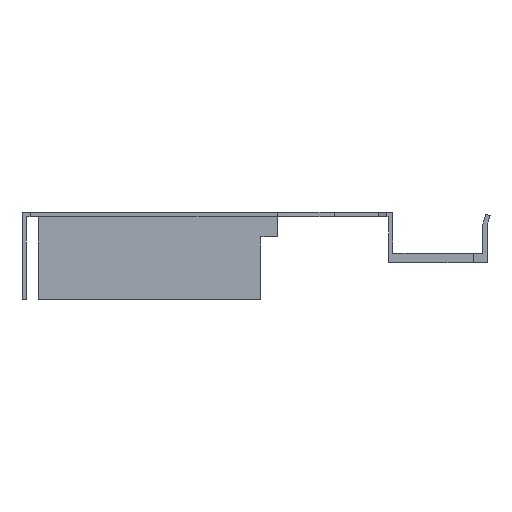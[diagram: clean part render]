
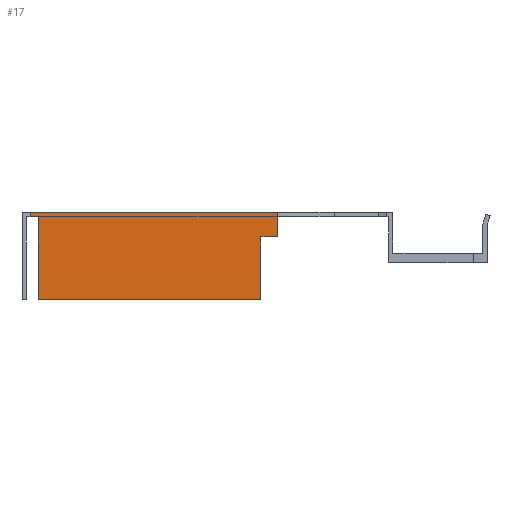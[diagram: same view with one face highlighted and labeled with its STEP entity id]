
A CAD part, left-side view. The second image highlights one B-rep face of the part: STEP entity #17.
In plain terms, the highlighted planar face has unit normal (-1, 0, 0).
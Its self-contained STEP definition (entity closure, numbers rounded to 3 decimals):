
#6 = DIRECTION ( 'NONE',  ( 0., 1., 0. ) ) ;
#17 = ADVANCED_FACE ( 'NONE', ( #1315 ), #557, .T. ) ;
#86 = DIRECTION ( 'NONE',  ( 0., -1., 0. ) ) ;
#89 = DIRECTION ( 'NONE',  ( 0., 0., 1. ) ) ;
#90 = CARTESIAN_POINT ( 'NONE',  ( -911., 66.5, 6.7 ) ) ;
#91 = DIRECTION ( 'NONE',  ( 0., 0., -1. ) ) ;
#92 = CARTESIAN_POINT ( 'NONE',  ( -911., 65., 7.5 ) ) ;
#96 = DIRECTION ( 'NONE',  ( 0., 0., -1. ) ) ;
#97 = CARTESIAN_POINT ( 'NONE',  ( -911., 21.2, 0. ) ) ;
#99 = DIRECTION ( 'NONE',  ( 0., -1., 0. ) ) ;
#100 = CARTESIAN_POINT ( 'NONE',  ( -911., 65., -8.5 ) ) ;
#106 = CARTESIAN_POINT ( 'NONE',  ( -911., 24.2, 3. ) ) ;
#133 = DIRECTION ( 'NONE',  ( 0., 0., 1. ) ) ;
#142 = CARTESIAN_POINT ( 'NONE',  ( -911., 24.2, -8.5 ) ) ;
#192 = CARTESIAN_POINT ( 'NONE',  ( -911., 24.2, -8.5 ) ) ;
#234 = VERTEX_POINT ( 'NONE', #312 ) ;
#236 = VERTEX_POINT ( 'NONE', #310 ) ;
#242 = VERTEX_POINT ( 'NONE', #302 ) ;
#248 = CARTESIAN_POINT ( 'NONE',  ( -911., 21.2, 7.5 ) ) ;
#251 = VERTEX_POINT ( 'NONE', #300 ) ;
#262 = CARTESIAN_POINT ( 'NONE',  ( -911., 24.2, 3. ) ) ;
#277 = CARTESIAN_POINT ( 'NONE',  ( -911., 66.5, 6.7 ) ) ;
#300 = CARTESIAN_POINT ( 'NONE',  ( -911., 66.5, 7.5 ) ) ;
#302 = CARTESIAN_POINT ( 'NONE',  ( -911., 65., -8.5 ) ) ;
#310 = CARTESIAN_POINT ( 'NONE',  ( -911., 65., 6.7 ) ) ;
#312 = CARTESIAN_POINT ( 'NONE',  ( -911., 21.2, 3. ) ) ;
#338 = VERTEX_POINT ( 'NONE', #277 ) ;
#385 = VERTEX_POINT ( 'NONE', #262 ) ;
#414 = VERTEX_POINT ( 'NONE', #248 ) ;
#429 = VERTEX_POINT ( 'NONE', #192 ) ;
#547 = DIRECTION ( 'NONE',  ( 0., 0., 1. ) ) ;
#548 = DIRECTION ( 'NONE',  ( -1., 0., 0. ) ) ;
#554 = CARTESIAN_POINT ( 'NONE',  ( -911., -16.5, 0. ) ) ;
#557 = PLANE ( 'NONE',  #718 ) ;
#586 = EDGE_CURVE ( 'NONE', #429, #385, #1216, .T. ) ;
#600 = EDGE_CURVE ( 'NONE', #242, #429, #1188, .T. ) ;
#601 = EDGE_CURVE ( 'NONE', #414, #234, #1186, .T. ) ;
#603 = EDGE_CURVE ( 'NONE', #236, #242, #1182, .T. ) ;
#604 = EDGE_CURVE ( 'NONE', #338, #251, #1180, .T. ) ;
#605 = EDGE_CURVE ( 'NONE', #385, #234, #1203, .T. ) ;
#641 = EDGE_CURVE ( 'NONE', #236, #338, #1107, .T. ) ;
#671 = EDGE_CURVE ( 'NONE', #251, #414, #1049, .T. ) ;
#718 = AXIS2_PLACEMENT_3D ( 'NONE', #554, #548, #547 ) ;
#799 = CARTESIAN_POINT ( 'NONE',  ( -911., 0.8, 6.7 ) ) ;
#860 = CARTESIAN_POINT ( 'NONE',  ( -911., 0., 7.5 ) ) ;
#861 = DIRECTION ( 'NONE',  ( 0., -1., 0. ) ) ;
#1048 = VECTOR ( 'NONE', #861, 1000. ) ;
#1049 = LINE ( 'NONE', #860, #1048 ) ;
#1106 = VECTOR ( 'NONE', #6, 1000. ) ;
#1107 = LINE ( 'NONE', #799, #1106 ) ;
#1178 = VECTOR ( 'NONE', #86, 1000. ) ;
#1179 = VECTOR ( 'NONE', #89, 1000. ) ;
#1180 = LINE ( 'NONE', #90, #1179 ) ;
#1181 = VECTOR ( 'NONE', #91, 1000. ) ;
#1182 = LINE ( 'NONE', #92, #1181 ) ;
#1185 = VECTOR ( 'NONE', #96, 1000. ) ;
#1186 = LINE ( 'NONE', #97, #1185 ) ;
#1187 = VECTOR ( 'NONE', #99, 1000. ) ;
#1188 = LINE ( 'NONE', #100, #1187 ) ;
#1203 = LINE ( 'NONE', #106, #1178 ) ;
#1216 = LINE ( 'NONE', #142, #1219 ) ;
#1219 = VECTOR ( 'NONE', #133, 1000. ) ;
#1315 = FACE_OUTER_BOUND ( 'NONE', #1583, .T. ) ;
#1459 = ORIENTED_EDGE ( 'NONE', *, *, #604, .F. ) ;
#1460 = ORIENTED_EDGE ( 'NONE', *, *, #641, .F. ) ;
#1461 = ORIENTED_EDGE ( 'NONE', *, *, #603, .T. ) ;
#1462 = ORIENTED_EDGE ( 'NONE', *, *, #600, .T. ) ;
#1463 = ORIENTED_EDGE ( 'NONE', *, *, #586, .T. ) ;
#1464 = ORIENTED_EDGE ( 'NONE', *, *, #605, .T. ) ;
#1465 = ORIENTED_EDGE ( 'NONE', *, *, #601, .F. ) ;
#1466 = ORIENTED_EDGE ( 'NONE', *, *, #671, .F. ) ;
#1583 = EDGE_LOOP ( 'NONE', ( #1459, #1460, #1461, #1462, #1463, #1464, #1465, #1466 ) ) ;
